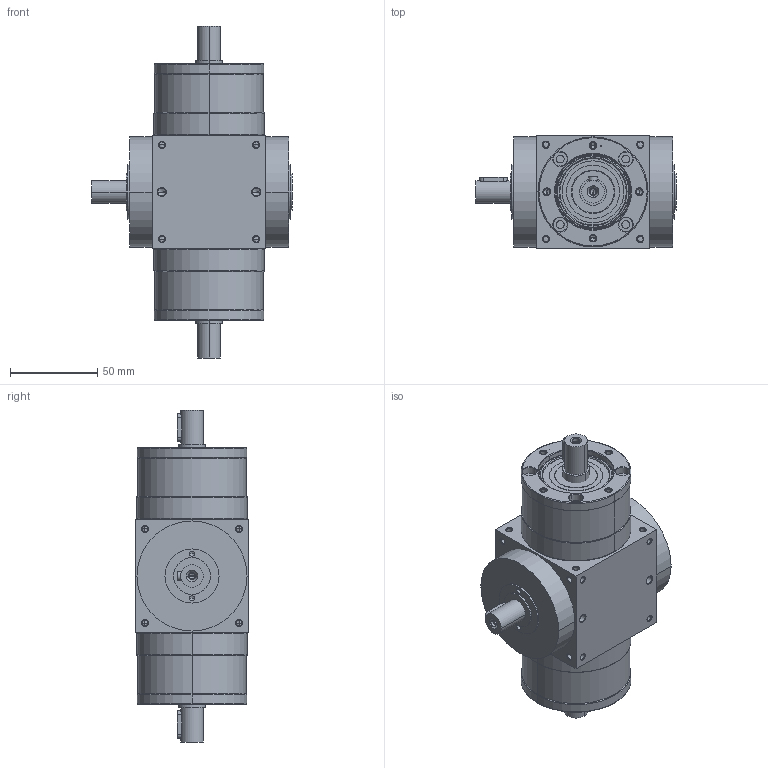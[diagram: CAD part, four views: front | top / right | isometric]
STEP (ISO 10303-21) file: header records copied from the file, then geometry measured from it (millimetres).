
FILE_DESCRIPTION((''),'2;1');
FILE_NAME('AT065LM-1_ASM','2010-02-09T',('d00080'),(''),'PRO/ENGINEER BY PARAMETRIC TECHNOLOGY CORPORATION, 2008170','PRO/ENGINEER BY PARAMETRIC TECHNOLOGY CORPORATION, 2008170','');
FILE_SCHEMA(('CONFIG_CONTROL_DESIGN'));
Length unit declared in the file: millimetre
Products named in the file (4): ATLM-HOUSING-1-2; P1801200001; 22400071002; AT065LM-1_ASM
Assembly tree (5 placements, depth 2):
  AT065LM-1_ASM
    ATLM-HOUSING-1-2
    P1801200001  x2
    22400071002  x2
Bounding box: 114.5 x 65 x 190 mm (x, y, z)
Volume: 528041 mm3; surface area: 94040.1 mm2
Topology: 7 solids, 42 shells, 775 faces, 1857 edges, 1097 vertices
Faces by surface type: cylinder 338, cone 268, plane 103, torus 66
Entity records: 17364 total; most frequent: CARTESIAN_POINT 3664, DIRECTION 3065, ORIENTED_EDGE 2598, EDGE_CURVE 1361, AXIS2_PLACEMENT_3D 1283, VERTEX_POINT 852, CIRCLE 690, EDGE_LOOP 687
